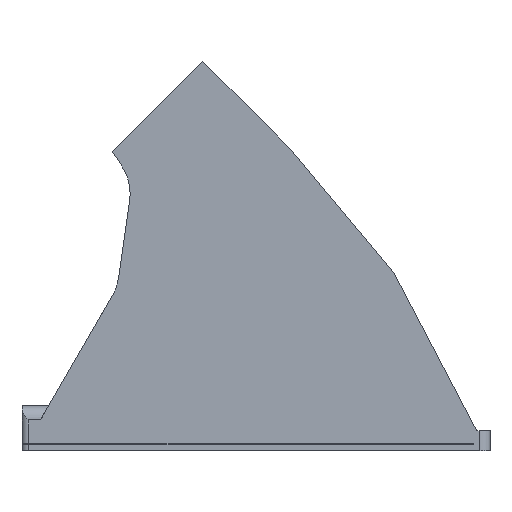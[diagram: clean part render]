
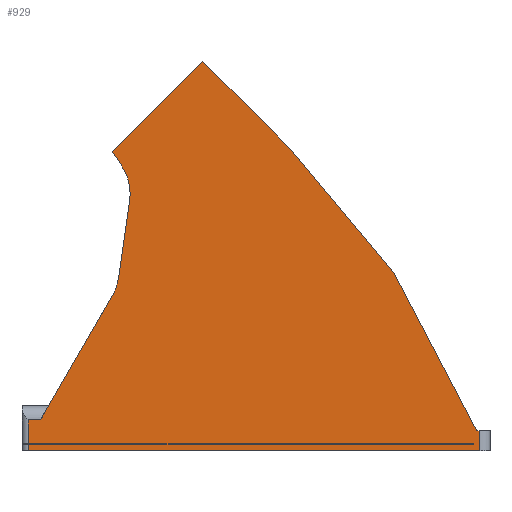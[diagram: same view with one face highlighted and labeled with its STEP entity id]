
A CAD part, left-side view. The second image highlights one B-rep face of the part: STEP entity #929.
In plain terms, the highlighted planar face has unit normal (-1, 0, 0).
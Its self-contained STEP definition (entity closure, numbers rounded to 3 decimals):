
#436 = VERTEX_POINT('',#437);
#437 = CARTESIAN_POINT('',(40.75,142.999,109.645));
#445 = EDGE_CURVE('',#446,#436,#448,.T.);
#446 = VERTEX_POINT('',#447);
#447 = CARTESIAN_POINT('',(40.75,168.455,84.189));
#448 = LINE('',#449,#450);
#449 = CARTESIAN_POINT('',(40.75,168.455,84.189));
#450 = VECTOR('',#451,1.);
#451 = DIRECTION('',(0.,-0.707,0.707));
#905 = VERTEX_POINT('',#906);
#906 = CARTESIAN_POINT('',(40.75,118.251,84.896));
#920 = EDGE_CURVE('',#905,#436,#921,.T.);
#921 = B_SPLINE_CURVE_WITH_KNOTS('',1,(#922,#923),.UNSPECIFIED.,.F.,.F.,
  (2,2),(0.,1.),.PIECEWISE_BEZIER_KNOTS.);
#922 = CARTESIAN_POINT('',(40.75,118.251,84.896));
#923 = CARTESIAN_POINT('',(40.75,142.999,109.645));
#929 = ADVANCED_FACE('',(#930),#1025,.T.);
#930 = FACE_BOUND('',#931,.T.);
#931 = EDGE_LOOP('',(#932,#941,#949,#957,#965,#973,#981,#988,#993,#994,
    #995,#1002,#1011,#1018));
#932 = ORIENTED_EDGE('',*,*,#933,.F.);
#933 = EDGE_CURVE('',#934,#936,#938,.T.);
#934 = VERTEX_POINT('',#935);
#935 = CARTESIAN_POINT('',(40.75,188.639,8.7));
#936 = VERTEX_POINT('',#937);
#937 = CARTESIAN_POINT('',(40.75,168.4,43.657));
#938 = B_SPLINE_CURVE_WITH_KNOTS('',1,(#939,#940),.UNSPECIFIED.,.F.,.F.,
  (2,2),(0.,1.),.PIECEWISE_BEZIER_KNOTS.);
#939 = CARTESIAN_POINT('',(40.75,190.375,5.7));
#940 = CARTESIAN_POINT('',(40.75,167.041,46.005));
#941 = ORIENTED_EDGE('',*,*,#942,.F.);
#942 = EDGE_CURVE('',#943,#934,#945,.T.);
#943 = VERTEX_POINT('',#944);
#944 = CARTESIAN_POINT('',(40.75,192.15,8.7));
#945 = LINE('',#946,#947);
#946 = CARTESIAN_POINT('',(40.75,195.15,8.7));
#947 = VECTOR('',#948,1.);
#948 = DIRECTION('',(0.,-1.,0.));
#949 = ORIENTED_EDGE('',*,*,#950,.F.);
#950 = EDGE_CURVE('',#951,#943,#953,.T.);
#951 = VERTEX_POINT('',#952);
#952 = CARTESIAN_POINT('',(40.75,192.15,0.));
#953 = LINE('',#954,#955);
#954 = CARTESIAN_POINT('',(40.75,192.15,-0.3));
#955 = VECTOR('',#956,1.);
#956 = DIRECTION('',(0.,0.,1.));
#957 = ORIENTED_EDGE('',*,*,#958,.T.);
#958 = EDGE_CURVE('',#951,#959,#961,.T.);
#959 = VERTEX_POINT('',#960);
#960 = CARTESIAN_POINT('',(40.75,65.15,0.));
#961 = LINE('',#962,#963);
#962 = CARTESIAN_POINT('',(40.75,163.677,0.));
#963 = VECTOR('',#964,1.);
#964 = DIRECTION('',(0.,-1.,0.));
#965 = ORIENTED_EDGE('',*,*,#966,.T.);
#966 = EDGE_CURVE('',#959,#967,#969,.T.);
#967 = VERTEX_POINT('',#968);
#968 = CARTESIAN_POINT('',(40.75,65.15,5.7));
#969 = LINE('',#970,#971);
#970 = CARTESIAN_POINT('',(40.75,65.15,-0.3));
#971 = VECTOR('',#972,1.);
#972 = DIRECTION('',(0.,0.,1.));
#973 = ORIENTED_EDGE('',*,*,#974,.F.);
#974 = EDGE_CURVE('',#975,#967,#977,.T.);
#975 = VERTEX_POINT('',#976);
#976 = CARTESIAN_POINT('',(40.75,65.925,5.7));
#977 = LINE('',#978,#979);
#978 = CARTESIAN_POINT('',(40.75,191.15,5.7));
#979 = VECTOR('',#980,1.);
#980 = DIRECTION('',(0.,-1.,0.));
#981 = ORIENTED_EDGE('',*,*,#982,.T.);
#982 = EDGE_CURVE('',#975,#983,#985,.T.);
#983 = VERTEX_POINT('',#984);
#984 = CARTESIAN_POINT('',(40.75,89.259,50.248));
#985 = B_SPLINE_CURVE_WITH_KNOTS('',1,(#986,#987),.UNSPECIFIED.,.F.,.F.,
  (2,2),(0.,1.),.PIECEWISE_BEZIER_KNOTS.);
#986 = CARTESIAN_POINT('',(40.75,65.925,5.7));
#987 = CARTESIAN_POINT('',(40.75,89.259,50.248));
#988 = ORIENTED_EDGE('',*,*,#989,.T.);
#989 = EDGE_CURVE('',#983,#905,#990,.T.);
#990 = B_SPLINE_CURVE_WITH_KNOTS('',1,(#991,#992),.UNSPECIFIED.,.F.,.F.,
  (2,2),(0.,1.),.PIECEWISE_BEZIER_KNOTS.);
#991 = CARTESIAN_POINT('',(40.75,89.259,50.248));
#992 = CARTESIAN_POINT('',(40.75,118.251,84.896));
#993 = ORIENTED_EDGE('',*,*,#920,.T.);
#994 = ORIENTED_EDGE('',*,*,#445,.F.);
#995 = ORIENTED_EDGE('',*,*,#996,.F.);
#996 = EDGE_CURVE('',#997,#446,#999,.T.);
#997 = VERTEX_POINT('',#998);
#998 = CARTESIAN_POINT('',(40.75,165.765,80.154));
#999 = B_SPLINE_CURVE_WITH_KNOTS('',1,(#1000,#1001),.UNSPECIFIED.,.F.,
  .F.,(2,2),(0.,1.),.PIECEWISE_BEZIER_KNOTS.);
#1000 = CARTESIAN_POINT('',(40.75,162.798,75.704));
#1001 = CARTESIAN_POINT('',(40.75,168.455,84.189));
#1002 = ORIENTED_EDGE('',*,*,#1003,.T.);
#1003 = EDGE_CURVE('',#997,#1004,#1006,.T.);
#1004 = VERTEX_POINT('',#1005);
#1005 = CARTESIAN_POINT('',(40.75,163.555,70.408));
#1006 = CIRCLE('',#1007,14.);
#1007 = AXIS2_PLACEMENT_3D('',#1008,#1009,#1010);
#1008 = CARTESIAN_POINT('',(40.75,177.414,72.388));
#1009 = DIRECTION('',(1.,0.,0.));
#1010 = DIRECTION('',(0.,-0.707,-0.707));
#1011 = ORIENTED_EDGE('',*,*,#1012,.F.);
#1012 = EDGE_CURVE('',#1013,#1004,#1015,.T.);
#1013 = VERTEX_POINT('',#1014);
#1014 = CARTESIAN_POINT('',(40.75,166.657,48.691));
#1015 = B_SPLINE_CURVE_WITH_KNOTS('',1,(#1016,#1017),.UNSPECIFIED.,.F.,
  .F.,(2,2),(0.,1.),.PIECEWISE_BEZIER_KNOTS.);
#1016 = CARTESIAN_POINT('',(40.75,167.041,46.005));
#1017 = CARTESIAN_POINT('',(40.75,162.798,75.704));
#1018 = ORIENTED_EDGE('',*,*,#1019,.T.);
#1019 = EDGE_CURVE('',#1013,#936,#1020,.T.);
#1020 = CIRCLE('',#1021,14.);
#1021 = AXIS2_PLACEMENT_3D('',#1022,#1023,#1024);
#1022 = CARTESIAN_POINT('',(40.75,180.516,50.671));
#1023 = DIRECTION('',(1.,0.,0.));
#1024 = DIRECTION('',(0.,-0.707,-0.707));
#1025 = PLANE('',#1026);
#1026 = AXIS2_PLACEMENT_3D('',#1027,#1028,#1029);
#1027 = CARTESIAN_POINT('',(40.75,131.926,38.593));
#1028 = DIRECTION('',(-1.,0.,0.));
#1029 = DIRECTION('',(0.,-0.707,-0.707));
